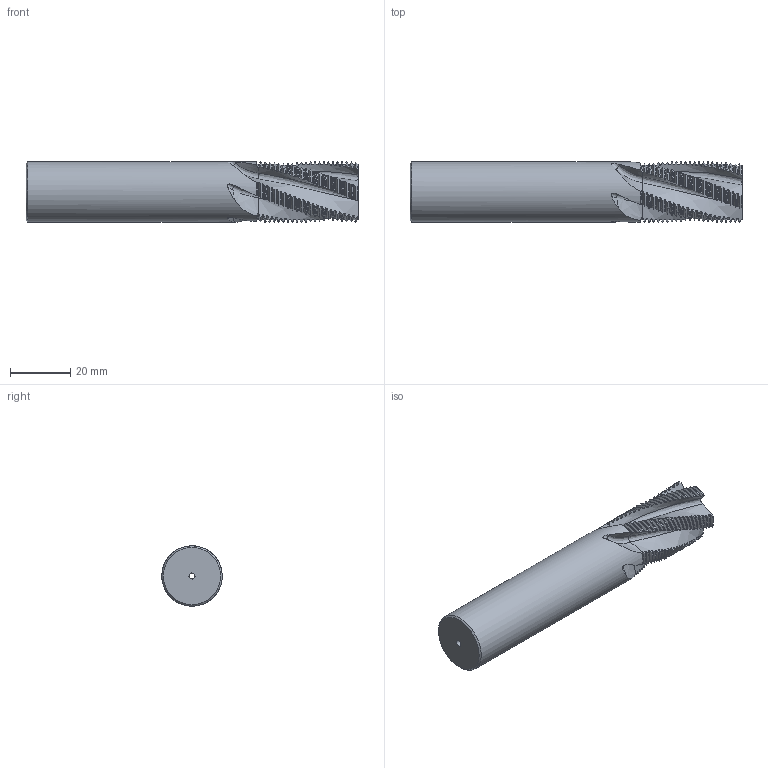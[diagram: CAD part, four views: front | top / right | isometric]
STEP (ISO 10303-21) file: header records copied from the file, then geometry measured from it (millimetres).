
FILE_DESCRIPTION(/* description */ (''),/* implementation_level */ '2;1');
FILE_NAME(/* name */ '00035657-STEP',/* time_stamp */ '2024-02-13T14:36:22+01:00',/* author */ (''),/* organization */ (''),/* preprocessor_version */ 'ST-DEVELOPER v16.5',/* originating_system */ 'HiCAD 2017 2201.0 Build 268',/* authorisation */ '');
FILE_SCHEMA (('AUTOMOTIVE_DESIGN { 1 0 10303 214 1 1 1 1 }'));
Products named in the file (2): Root; ROTATIONSTEIL_0
Assembly tree (1 placements, depth 2):
  Root
    ROTATIONSTEIL_0
Bounding box: 110 x 20 x 19.99 mm (x, y, z)
Volume: 29400.1 mm3; surface area: 9234.1 mm2
Topology: 1 solids, 1 shells, 725 faces, 2155 edges, 1432 vertices
Faces by surface type: cylinder 227, cone 226, torus 225, bspline 45, plane 2
Full cylindrical faces by diameter (mm): 2 x1, 20 x1
Entity records: 73939 total; most frequent: CARTESIAN_POINT 36890, PRESENTATION_STYLE_ASSIGNMENT 4299, COLOUR_RGB 4299, DRAUGHTING_PRE_DEFINED_CURVE_FONT 4298, CURVE_STYLE 4298, OVER_RIDING_STYLED_ITEM 4298, ORIENTED_EDGE 4298, DIRECTION 2732
